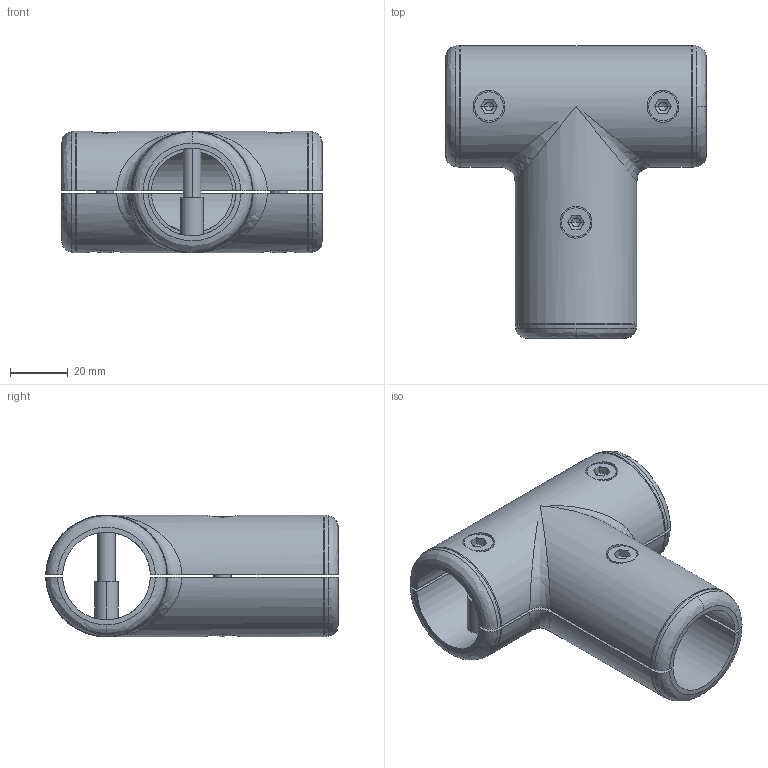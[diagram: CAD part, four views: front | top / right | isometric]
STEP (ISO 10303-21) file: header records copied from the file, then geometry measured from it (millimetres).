
FILE_DESCRIPTION (( 'STEP AP214' ), '1' );
FILE_NAME ('31000410003.STEP', '2024-09-02T09:46:20', ( '' ), ( '' ), 'SwSTEP 2.0', 'SolidWorks 2016', '' );
FILE_SCHEMA (( 'AUTOMOTIVE_DESIGN' ));
Length unit declared in the file: millimetre
Products named in the file (5): 31000410003; 635179_H³lsenmutter_7; 1889_Schale 1; DIN 6912  (Regelgewinde) M6 x 25_6; 1889_Schale 2
Assembly tree (8 placements, depth 2):
  31000410003
    1889_Schale 1
    1889_Schale 2
    635179_H³lsenmutter_7  x3
    DIN 6912  (Regelgewinde) M6 x 25_6  x3
Bounding box: 90 x 100.99 x 42 mm (x, y, z)
Volume: 97914.4 mm3; surface area: 42624.7 mm2
Topology: 8 solids, 8 shells, 199 faces, 506 edges, 323 vertices
Faces by surface type: cylinder 72, plane 53, cone 36, bspline 32, sphere 6
Entity records: 11262 total; most frequent: CARTESIAN_POINT 6839, ORIENTED_EDGE 660, DIRECTION 494, EDGE_CURVE 330, VERTEX_POINT 221, AXIS2_PLACEMENT_3D 198, EDGE_LOOP 145, UNCERTAINTY_MEASURE_WITH_UNIT 138
